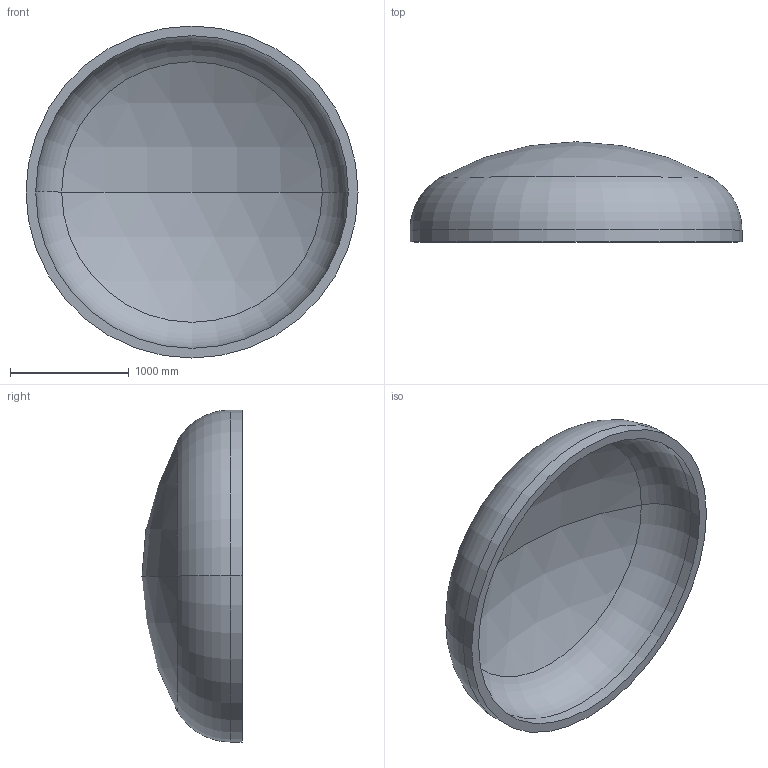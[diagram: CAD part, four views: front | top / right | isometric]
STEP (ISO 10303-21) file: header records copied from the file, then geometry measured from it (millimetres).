
FILE_DESCRIPTION (( 'STEP AP203' ), '1' );
FILE_NAME ('DIN 28013 Korbbogenform_-_Boden DIN 28013 - 2800 x 100 - I - s=82.step', '2016-07-01T17:12:46', ( '' ), ( '' ), 'SwSTEP 2.0', 'SolidWorks 2013', '' );
FILE_SCHEMA (( 'CONFIG_CONTROL_DESIGN' ));
Length unit declared in the file: millimetre
Products named in the file (1): DIN 28013 Korbbogenform_-_Boden DIN 28013 - 2800 x 100 - I - s=82
Bounding box: 2800 x 844.8 x 2800 mm (x, y, z)
Volume: 742681029.9 mm3; surface area: 18828433.9 mm2
Topology: 1 solids, 1 shells, 13 faces, 24 edges, 14 vertices
Faces by surface type: torus 4, cylinder 4, sphere 4, plane 1
Entity records: 407 total; most frequent: DIRECTION 72, CARTESIAN_POINT 52, ORIENTED_EDGE 48, AXIS2_PLACEMENT_3D 34, EDGE_CURVE 24, CIRCLE 20, EDGE_LOOP 14, VERTEX_POINT 14
